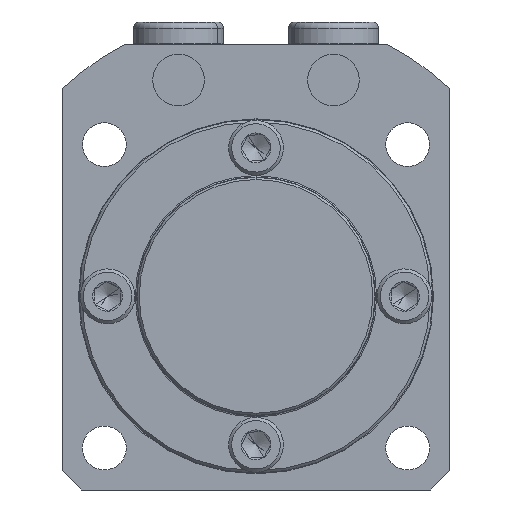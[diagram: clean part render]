
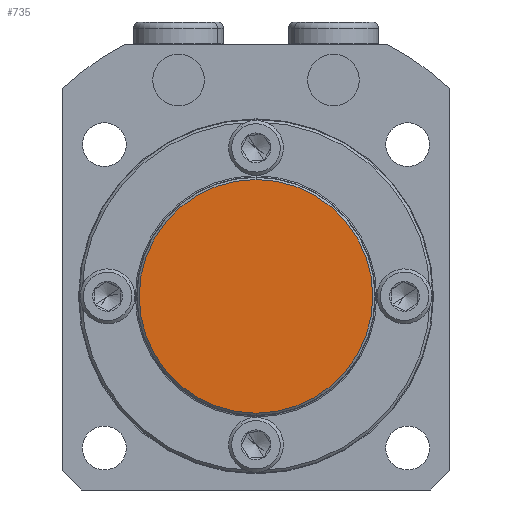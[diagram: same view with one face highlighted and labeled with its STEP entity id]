
A CAD part, front view. The second image highlights one B-rep face of the part: STEP entity #735.
In plain terms, the highlighted planar face has unit normal (0, -1, 0).
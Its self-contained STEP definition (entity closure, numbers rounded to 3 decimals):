
#409 = ORIENTED_EDGE ( 'NONE', *, *, #4207, .T. ) ;
#410 = ORIENTED_EDGE ( 'NONE', *, *, #4161, .T. ) ;
#454 = VERTEX_POINT ( 'NONE', #1691 ) ;
#735 = ADVANCED_FACE ( 'NONE', ( #3735 ), #3736, .T. ) ;
#1691 = CARTESIAN_POINT ( 'NONE',  ( 0., -10., 18.1 ) ) ;
#3291 = VERTEX_POINT ( 'NONE', #4852 ) ;
#3727 = CARTESIAN_POINT ( 'NONE',  ( 0., -10., 0. ) ) ;
#3735 = FACE_OUTER_BOUND ( 'NONE', #6956, .T. ) ;
#3736 = PLANE ( 'NONE',  #3788 ) ;
#3739 = DIRECTION ( 'NONE',  ( 0., -1., 0. ) ) ;
#3740 = DIRECTION ( 'NONE',  ( 0., 0., -1. ) ) ;
#3788 = AXIS2_PLACEMENT_3D ( 'NONE', #3727, #3739, #3740 ) ;
#4161 = EDGE_CURVE ( 'NONE', #3291, #454, #5269, .T. ) ;
#4207 = EDGE_CURVE ( 'NONE', #454, #3291, #5345, .T. ) ;
#4852 = CARTESIAN_POINT ( 'NONE',  ( 0., -10., -18.1 ) ) ;
#5057 = CARTESIAN_POINT ( 'NONE',  ( 0., -10., 0. ) ) ;
#5058 = DIRECTION ( 'NONE',  ( 0., -1., 0. ) ) ;
#5059 = DIRECTION ( 'NONE',  ( 0., 0., -1. ) ) ;
#5269 = CIRCLE ( 'NONE', #5274, 18.1 ) ;
#5274 = AXIS2_PLACEMENT_3D ( 'NONE', #5057, #5058, #5059 ) ;
#5345 = CIRCLE ( 'NONE', #5348, 18.1 ) ;
#5348 = AXIS2_PLACEMENT_3D ( 'NONE', #5496, #5497, #5498 ) ;
#5496 = CARTESIAN_POINT ( 'NONE',  ( 0., -10., 0. ) ) ;
#5497 = DIRECTION ( 'NONE',  ( 0., -1., 0. ) ) ;
#5498 = DIRECTION ( 'NONE',  ( 0., 0., -1. ) ) ;
#6956 = EDGE_LOOP ( 'NONE', ( #409, #410 ) ) ;
